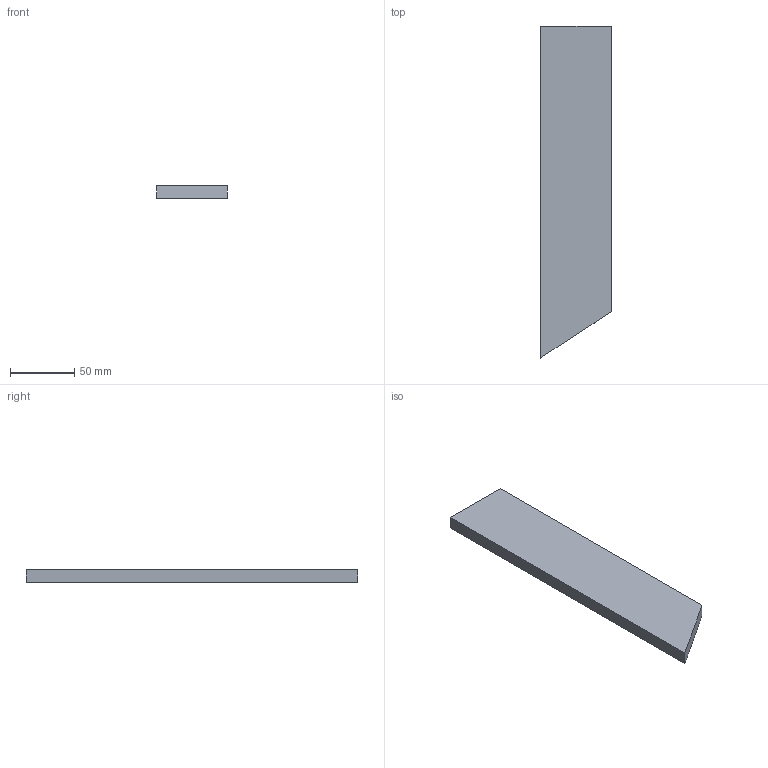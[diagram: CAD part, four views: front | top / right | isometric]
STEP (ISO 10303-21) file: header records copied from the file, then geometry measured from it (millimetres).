
FILE_DESCRIPTION(/* description */ (''),/* implementation_level */ '2;1');
FILE_NAME(/* name */ 'Pos122-Plaatwerk D= 10-S235JRG2-3st',/* time_stamp */ '2024-08-06T13:37:45+02:00',/* author */ (''),/* organization */ (''),/* preprocessor_version */ 'ST-DEVELOPER v16.5',/* originating_system */ 'HiCAD 2024 2901.2 Build 361',/* authorisation */ '');
FILE_SCHEMA (('AUTOMOTIVE_DESIGN { 1 0 10303 214 1 1 1 1 }'));
Length unit declared in the file: millimetre
Products named in the file (1): Pos122-Plaatwerk D= 10-S235JRG2-3st
Bounding box: 55 x 257.6 x 10 mm (x, y, z)
Volume: 131805.2 mm3; surface area: 32359.9 mm2
Topology: 1 solids, 1 shells, 6 faces, 12 edges, 8 vertices
Faces by surface type: plane 5, cylinder 1
Entity records: 296 total; most frequent: DIRECTION 26, CARTESIAN_POINT 26, PRESENTATION_STYLE_ASSIGNMENT 25, COLOUR_RGB 25, DRAUGHTING_PRE_DEFINED_CURVE_FONT 24, CURVE_STYLE 24, OVER_RIDING_STYLED_ITEM 24, ORIENTED_EDGE 24
